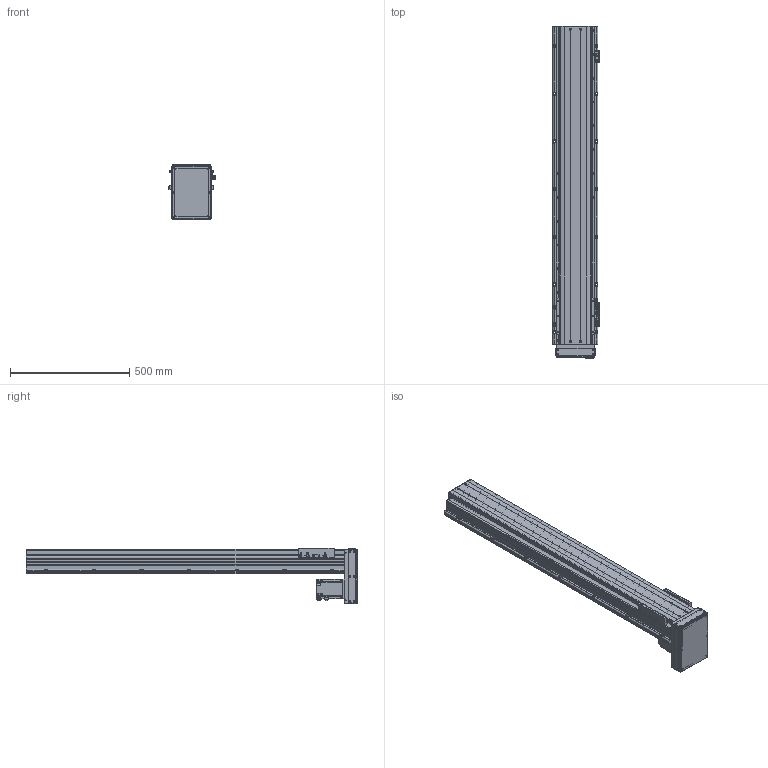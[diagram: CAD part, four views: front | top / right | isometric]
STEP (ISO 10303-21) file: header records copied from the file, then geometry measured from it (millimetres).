
FILE_DESCRIPTION(/* description */ ('MANUFACTURE','CAx-IF Rec.Pracs.---Representation and Presentation of Product Manufacturing Information (PMI)---4.0---2014-10-13'),/* implementation_level */ '2;1');
FILE_NAME(/* name */ '\\192.168.0.160\disk1\HAN SHIN Master\B-설계부문\C-표준\B-2024년\BC02-표준도면\+로봇 개선표준도면\표준 승인도 폴더 - 재작업\3D\HS Type\HS160\D-Type\HS160-D70-N-1100-R10.stp',/* time_stamp */ '2024-08-28T13:22:22+09:00',/* author */ ('user'),/* organization */ (''),/* preprocessor_version */ 'ST-DEVELOPER v18.1',/* originating_system */ 'Autodesk Inventor 2022',/* authorisation */ 'LIP');
FILE_SCHEMA (('AP242_MANAGED_MODEL_BASED_3D_ENGINEERING_MIM_LF { 1 0 10303 442 1 1 4 }'));
Products named in the file (30): HS160 D 70-N-0500-R10 - 간소화; HS160 LR BASE (400W-20Pi); 6004ZZ; 6004ZZ Outer ring; 6004ZZ Shield1; 6004ZZ Inner ring; 6004ZZ Ball; 6004ZZ Shield2; UPCOVER; HR180 FRONT BLOCK; HR180 FRONT BLOCK_1; REAR COVER; STOPPER104; HR120 SENSOR DOG; TABLE; LMKE2020 NUT; NUT HOLDER; hsr_ftht_A-M6F_grease_nipple_joint; NIPPLE CAP(신규); hg-kr73_; 750W MOTOR PLATE; 화살표; SENSOR BRK(EE-SX674A); EE_SX674A; HS160 D MOTOR PLATE; HG160DACRYLCOVER001; HG160DACRYLCOVER003; HG160 D BELT COVER; HG160ACRYLCOVER002; SIDE COVER
Assembly tree (57 placements, depth 3):
  HS160 D 70-N-0500-R10 - 간소화
    HS160 LR BASE (400W-20Pi)
    6004ZZ
      6004ZZ Outer ring
      6004ZZ Shield1
      6004ZZ Inner ring
      6004ZZ Ball  x13
      6004ZZ Shield2
    UPCOVER
    SIDE COVER  x2
    HR180 FRONT BLOCK
    HR180 FRONT BLOCK_1
    REAR COVER
    STOPPER104  x2
    HR120 SENSOR DOG
    SENSOR BRK(EE-SX674A)  x3
    EE_SX674A  x3
    TABLE
    LMKE2020 NUT
    NUT HOLDER
    hsr_ftht_A-M6F_grease_nipple_joint  x5
    NIPPLE CAP(신규)  x5
    화살표  x2
    hg-kr73_
    750W MOTOR PLATE
    HS160 D MOTOR PLATE
    HG160DACRYLCOVER001
    HG160ACRYLCOVER002  x2
    HG160DACRYLCOVER003
    HG160 D BELT COVER
Bounding box: 193.5 x 1392 x 232 mm (x, y, z)
Volume: 9129742.6 mm3; surface area: 2311757.2 mm2
Topology: 56 solids, 56 shells, 2573 faces, 7105 edges, 4620 vertices
Faces by surface type: plane 1172, cylinder 959, cone 329, sphere 57, torus 36, bspline 20
Full cylindrical faces by diameter (mm): 2.459 x40, 3 x32, 3.2 x2, 3.242 x48, 3.4 x22, 3.5 x6, 4.134 x28, 4.2 x8, 4.5 x36, 4.917 x55, 5 x30, 5.5 x25, 5.6 x5, 5.9 x4, 6 x19, 6.5 x16, 6.6 x18, 7 x4, 7.6 x4, 8.376 x14, 9 x6, 9.5 x29, 11 x14, 19 x1, 20 x2, 25 x1, 25.7 x4, 27 x2, 29.5 x1, 30 x1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
Entity records: 73267 total; most frequent: CARTESIAN_POINT 15066, DIRECTION 11680, ORIENTED_EDGE 10530, EDGE_CURVE 5265, AXIS2_PLACEMENT_3D 4377, VERTEX_POINT 3502, LINE 2926, VECTOR 2926
